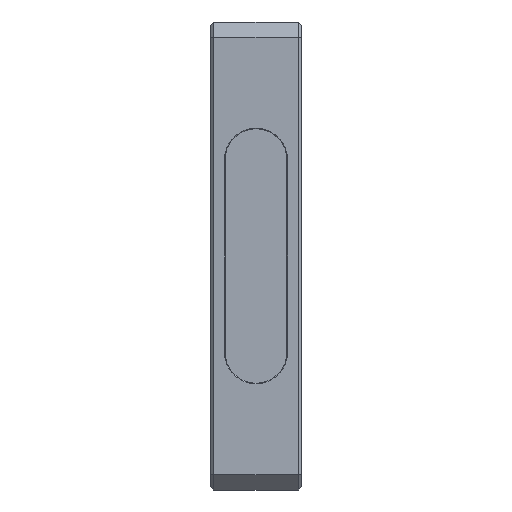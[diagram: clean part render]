
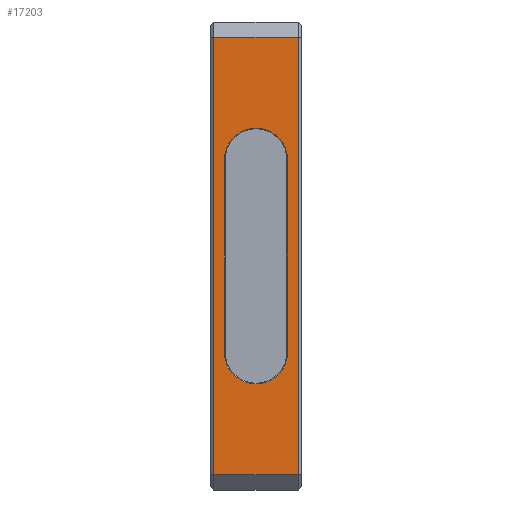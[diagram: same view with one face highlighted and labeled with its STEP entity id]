
A CAD part, left-side view. The second image highlights one B-rep face of the part: STEP entity #17203.
In plain terms, the highlighted planar face has unit normal (-1, 0, 0).
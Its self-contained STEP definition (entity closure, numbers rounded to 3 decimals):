
#558=DIRECTION('',(0.,1.,0.));
#559=VECTOR('',#558,28.);
#560=CARTESIAN_POINT('',(-77.5,1.,72.5));
#561=LINE('',#560,#559);
#3832=DIRECTION('',(0.,0.,-1.));
#3833=VECTOR('',#3832,63.754);
#3834=CARTESIAN_POINT('',(-77.5,4.551,31.877));
#3835=LINE('',#3834,#3833);
#3854=DIRECTION('',(0.,0.,1.));
#3855=VECTOR('',#3854,63.754);
#3856=CARTESIAN_POINT('',(-77.5,25.449,
-31.877));
#3857=LINE('',#3856,#3855);
#3862=DIRECTION('',(0.,0.,1.));
#3863=VECTOR('',#3862,145.);
#3864=CARTESIAN_POINT('',(-77.5,29.,-72.5));
#3865=LINE('',#3864,#3863);
#3866=DIRECTION('',(0.,1.,0.));
#3867=VECTOR('',#3866,28.);
#3868=CARTESIAN_POINT('',(-77.5,1.,-72.5));
#3869=LINE('',#3868,#3867);
#3870=CARTESIAN_POINT('',(-77.5,15.,31.877));
#3871=DIRECTION('',(-1.,0.,0.));
#3872=DIRECTION('',(0.,-1.,0.));
#3873=AXIS2_PLACEMENT_3D('',#3870,#3871,#3872);
#3875=CARTESIAN_POINT('',(-77.5,15.,31.877));
#3876=DIRECTION('',(-1.,0.,0.));
#3877=DIRECTION('',(0.,0.,1.));
#3878=AXIS2_PLACEMENT_3D('',#3875,#3876,#3877);
#3880=CARTESIAN_POINT('',(-77.5,15.,-31.877));
#3881=DIRECTION('',(-1.,0.,0.));
#3882=DIRECTION('',(0.,1.,0.));
#3883=AXIS2_PLACEMENT_3D('',#3880,#3881,#3882);
#3885=CARTESIAN_POINT('',(-77.5,15.,-31.877));
#3886=DIRECTION('',(-1.,0.,0.));
#3887=DIRECTION('',(0.,0.,-1.));
#3888=AXIS2_PLACEMENT_3D('',#3885,#3886,#3887);
#3890=DIRECTION('',(0.,0.,1.));
#3891=VECTOR('',#3890,145.);
#3892=CARTESIAN_POINT('',(-77.5,1.,-72.5));
#3893=LINE('',#3892,#3891);
#12144=CARTESIAN_POINT('',(-77.5,29.,-72.5));
#12145=VERTEX_POINT('',#12144);
#12146=CARTESIAN_POINT('',(-77.5,29.,72.5));
#12147=VERTEX_POINT('',#12146);
#12152=CARTESIAN_POINT('',(-77.5,1.,72.5));
#12153=VERTEX_POINT('',#12152);
#13079=CARTESIAN_POINT('',(-77.5,25.449,
-31.877));
#13080=VERTEX_POINT('',#13079);
#13081=CARTESIAN_POINT('',(-77.5,25.449,
31.877));
#13082=VERTEX_POINT('',#13081);
#13083=CARTESIAN_POINT('',(-77.5,4.551,
-31.877));
#13084=VERTEX_POINT('',#13083);
#13085=CARTESIAN_POINT('',(-77.5,15.,-42.326));
#13086=VERTEX_POINT('',#13085);
#13087=CARTESIAN_POINT('',(-77.5,4.551,
31.877));
#13088=VERTEX_POINT('',#13087);
#13091=CARTESIAN_POINT('',(-77.5,15.,42.326));
#13092=VERTEX_POINT('',#13091);
#13344=CARTESIAN_POINT('',(-77.5,1.,-72.5));
#13345=VERTEX_POINT('',#13344);
#17182=CARTESIAN_POINT('',(-77.5,30.,77.5));
#17183=DIRECTION('',(1.,0.,0.));
#17184=DIRECTION('',(0.,0.,-1.));
#17185=AXIS2_PLACEMENT_3D('',#17182,#17183,#17184);
#17186=PLANE('',#17185);
#17187=ORIENTED_EDGE('',*,*,#14374,.T.);
#17188=ORIENTED_EDGE('',*,*,#14404,.F.);
#17190=ORIENTED_EDGE('',*,*,#17189,.F.);
#17192=ORIENTED_EDGE('',*,*,#17191,.T.);
#17193=EDGE_LOOP('',(#17187,#17188,#17190,#17192));
#17194=FACE_OUTER_BOUND('',#17193,.F.);
#17195=ORIENTED_EDGE('',*,*,#17163,.T.);
#17196=ORIENTED_EDGE('',*,*,#17161,.T.);
#17197=ORIENTED_EDGE('',*,*,#17176,.F.);
#17198=ORIENTED_EDGE('',*,*,#17131,.T.);
#17199=ORIENTED_EDGE('',*,*,#17129,.T.);
#17200=ORIENTED_EDGE('',*,*,#17146,.F.);
#17201=EDGE_LOOP('',(#17195,#17196,#17197,#17198,#17199,#17200));
#17202=FACE_BOUND('',#17201,.F.);
#17203=ADVANCED_FACE('',(#17194,#17202),#17186,.F.);
#3874=CIRCLE('',#3873,10.449);
#3879=CIRCLE('',#3878,10.449);
#3884=CIRCLE('',#3883,10.449);
#3889=CIRCLE('',#3888,10.449);
#14374=EDGE_CURVE('',#12145,#12147,#3865,.T.);
#14404=EDGE_CURVE('',#12153,#12147,#561,.T.);
#17129=EDGE_CURVE('',#13086,#13084,#3889,.T.);
#17131=EDGE_CURVE('',#13080,#13086,#3884,.T.);
#17146=EDGE_CURVE('',#13088,#13084,#3835,.T.);
#17161=EDGE_CURVE('',#13092,#13082,#3879,.T.);
#17163=EDGE_CURVE('',#13088,#13092,#3874,.T.);
#17176=EDGE_CURVE('',#13080,#13082,#3857,.T.);
#17189=EDGE_CURVE('',#13345,#12153,#3893,.T.);
#17191=EDGE_CURVE('',#13345,#12145,#3869,.T.);
